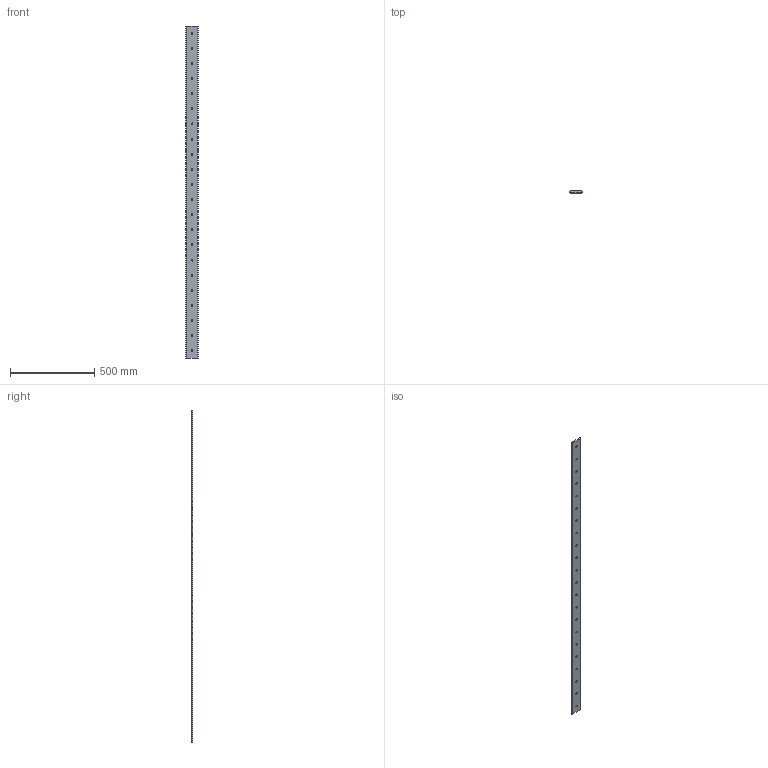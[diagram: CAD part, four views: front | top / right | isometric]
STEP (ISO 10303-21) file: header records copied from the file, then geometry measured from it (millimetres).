
FILE_DESCRIPTION(('STEP AP203'),'1');
FILE_NAME('slide_l76l1976p2.stp','2022-07-01T06:25:22',('TraceParts'),('TraceParts S.A.'),'Spatial InterOp 3D',' ',' ');
FILE_SCHEMA(('CONFIG_CONTROL_DESIGN'));
Length unit declared in the file: millimetre
Products named in the file (1): 1
Bounding box: 75.68 x 9.43 x 1976 mm (x, y, z)
Volume: 1283161.7 mm3; surface area: 316736.5 mm2
Topology: 1 solids, 1 shells, 56 faces, 162 edges, 108 vertices
Faces by surface type: cylinder 48, plane 8
Entity records: 2034 total; most frequent: DIRECTION 372, CARTESIAN_POINT 327, ORIENTED_EDGE 324, EDGE_CURVE 162, AXIS2_PLACEMENT_3D 153, VERTEX_POINT 108, EDGE_LOOP 100, CIRCLE 96
